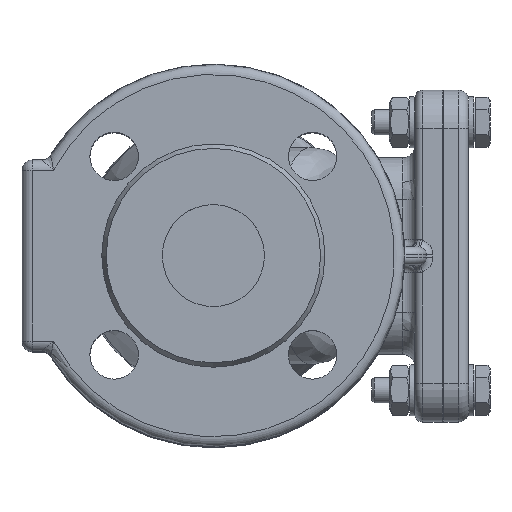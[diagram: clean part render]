
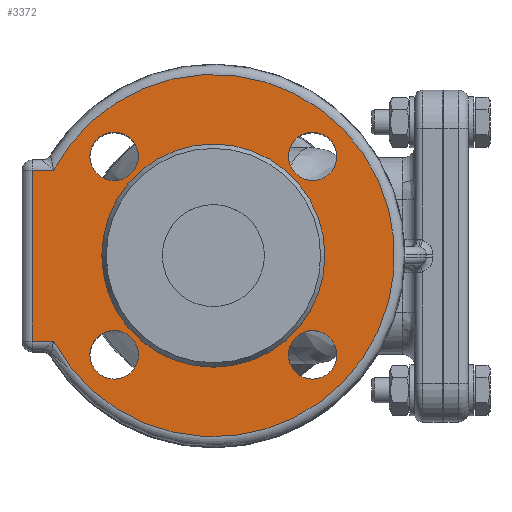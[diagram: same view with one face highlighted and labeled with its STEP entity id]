
A CAD part, top view. The second image highlights one B-rep face of the part: STEP entity #3372.
In plain terms, the highlighted planar face has unit normal (0, 0, 1).
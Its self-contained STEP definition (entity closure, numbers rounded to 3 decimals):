
#3372=ADVANCED_FACE('',(#9602,#9604,#9606,#9608,#9610,#9612),#9614,.T.);
#9602=FACE_BOUND('',#9603,.T.);
#9603=EDGE_LOOP('',(#13611,#13612,#13613,#13614));
#9604=FACE_BOUND('',#9605,.T.);
#9605=EDGE_LOOP('',(#13615));
#9606=FACE_BOUND('',#9607,.T.);
#9607=EDGE_LOOP('',(#13616));
#9608=FACE_BOUND('',#9609,.T.);
#9609=EDGE_LOOP('',(#13617));
#9610=FACE_BOUND('',#9611,.T.);
#9611=EDGE_LOOP('',(#13618));
#9612=FACE_BOUND('',#9613,.T.);
#9613=EDGE_LOOP('',(#13619));
#9614=PLANE('',#9615);
#9615=AXIS2_PLACEMENT_3D('',#9616,#9617,#9618);
#9616=CARTESIAN_POINT('',(0.,0.,177.));
#9617=DIRECTION('',(0.,0.,1.));
#9618=DIRECTION('',(-1.,0.,0.));
#13611=ORIENTED_EDGE('',*,*,#15841,.F.);
#13612=ORIENTED_EDGE('',*,*,#15842,.T.);
#13613=ORIENTED_EDGE('',*,*,#15843,.T.);
#13614=ORIENTED_EDGE('',*,*,#15844,.T.);
#13615=ORIENTED_EDGE('',*,*,#15845,.F.);
#13616=ORIENTED_EDGE('',*,*,#15779,.F.);
#13617=ORIENTED_EDGE('',*,*,#15780,.F.);
#13618=ORIENTED_EDGE('',*,*,#15781,.T.);
#13619=ORIENTED_EDGE('',*,*,#15782,.T.);
#15779=EDGE_CURVE('',#17861,#17861,#17862,.T.);
#15780=EDGE_CURVE('',#17863,#17863,#17864,.T.);
#15781=EDGE_CURVE('',#17865,#17865,#17866,.T.);
#15782=EDGE_CURVE('',#17867,#17867,#17868,.T.);
#15841=EDGE_CURVE('',#17957,#17958,#17959,.T.);
#15842=EDGE_CURVE('',#17957,#17960,#17961,.T.);
#15843=EDGE_CURVE('',#17960,#17962,#17963,.T.);
#15844=EDGE_CURVE('',#17962,#17958,#17964,.T.);
#15845=EDGE_CURVE('',#17965,#17965,#17966,.T.);
#17861=VERTEX_POINT('',#36862);
#17862=CIRCLE('',#36863,9.5);
#17863=VERTEX_POINT('',#36867);
#17864=CIRCLE('',#36868,9.5);
#17865=VERTEX_POINT('',#36872);
#17866=CIRCLE('',#36873,9.5);
#17867=VERTEX_POINT('',#36877);
#17868=CIRCLE('',#36878,9.5);
#17957=VERTEX_POINT('',#37112);
#17958=VERTEX_POINT('',#37113);
#17959=LINE('',#37114,#37115);
#17960=VERTEX_POINT('',#37117);
#17961=LINE('',#37118,#37119);
#17962=VERTEX_POINT('',#37121);
#17963=LINE('',#37122,#37123);
#17964=CIRCLE('',#37125,71.);
#17965=VERTEX_POINT('',#37129);
#17966=CIRCLE('',#37130,43.732);
#36862=CARTESIAN_POINT('',(38.891,29.391,177.));
#36863=AXIS2_PLACEMENT_3D('',#36864,#36865,#36866);
#36864=CARTESIAN_POINT('',(38.891,38.891,177.));
#36865=DIRECTION('',(0.,0.,1.));
#36866=DIRECTION('',(1.,0.,0.));
#36867=CARTESIAN_POINT('',(-38.891,29.391,177.));
#36868=AXIS2_PLACEMENT_3D('',#36869,#36870,#36871);
#36869=CARTESIAN_POINT('',(-38.891,38.891,177.));
#36870=DIRECTION('',(0.,0.,1.));
#36871=DIRECTION('',(1.,0.,0.));
#36872=CARTESIAN_POINT('',(38.891,-29.391,177.));
#36873=AXIS2_PLACEMENT_3D('',#36874,#36875,#36876);
#36874=CARTESIAN_POINT('',(38.891,-38.891,177.));
#36875=DIRECTION('',(0.,0.,-1.));
#36876=DIRECTION('',(1.,0.,0.));
#36877=CARTESIAN_POINT('',(-38.891,-29.391,177.));
#36878=AXIS2_PLACEMENT_3D('',#36879,#36880,#36881);
#36879=CARTESIAN_POINT('',(-38.891,-38.891,177.));
#36880=DIRECTION('',(0.,0.,-1.));
#36881=DIRECTION('',(1.,0.,0.));
#37112=CARTESIAN_POINT('',(-71.,33.5,177.));
#37113=CARTESIAN_POINT('',(-62.6,33.5,177.));
#37114=CARTESIAN_POINT('',(-71.,33.5,177.));
#37115=VECTOR('',#37116,1.);
#37116=DIRECTION('',(1.,0.,0.));
#37117=CARTESIAN_POINT('',(-71.,-33.5,177.));
#37118=CARTESIAN_POINT('',(-71.,33.5,177.));
#37119=VECTOR('',#37120,1.);
#37120=DIRECTION('',(0.,-1.,0.));
#37121=CARTESIAN_POINT('',(-62.6,-33.5,177.));
#37122=CARTESIAN_POINT('',(-71.,-33.5,177.));
#37123=VECTOR('',#37124,1.);
#37124=DIRECTION('',(1.,0.,0.));
#37125=AXIS2_PLACEMENT_3D('',#37126,#37127,#37128);
#37126=CARTESIAN_POINT('',(0.,0.,177.));
#37127=DIRECTION('',(0.,0.,1.));
#37128=DIRECTION('',(-0.882,-0.472,0.));
#37129=CARTESIAN_POINT('',(43.732,0.,177.));
#37130=AXIS2_PLACEMENT_3D('',#37131,#37132,#37133);
#37131=CARTESIAN_POINT('',(0.,0.,177.));
#37132=DIRECTION('',(0.,0.,1.));
#37133=DIRECTION('',(1.,0.,0.));
